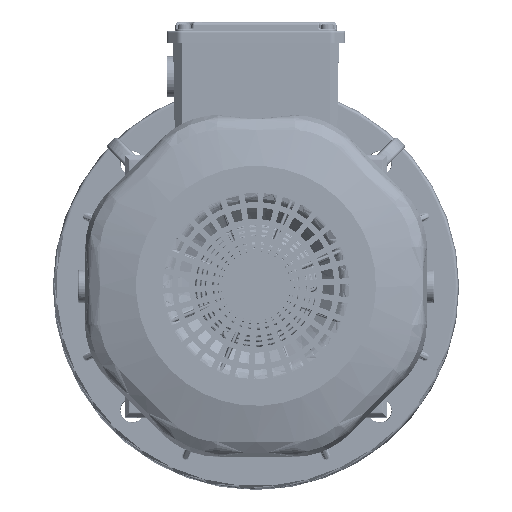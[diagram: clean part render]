
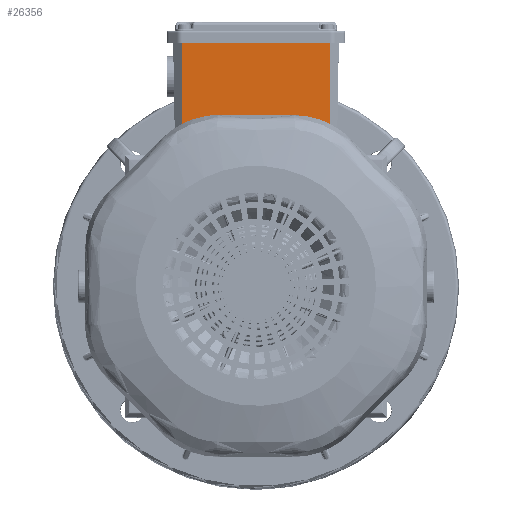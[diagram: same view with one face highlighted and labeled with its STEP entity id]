
A CAD part, top view. The second image highlights one B-rep face of the part: STEP entity #26356.
In plain terms, the highlighted planar face has unit normal (0, -0.018, 1).
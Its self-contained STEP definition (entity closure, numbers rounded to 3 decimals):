
#26356=ADVANCED_FACE('',(#41548),#39238,.T.);
#39238=PLANE('',#198395);
#41548=FACE_OUTER_BOUND('',#53903,.T.);
#53903=EDGE_LOOP('',(#84748,#84749,#84750,#84751));
#67784=LINE('',#270967,#76149);
#67827=LINE('',#271064,#76192);
#67837=LINE('',#271084,#76202);
#67838=LINE('',#271086,#76203);
#76149=VECTOR('',#219882,1.);
#76192=VECTOR('',#219961,1.);
#76202=VECTOR('',#219981,1.);
#76203=VECTOR('',#219984,1.);
#84748=ORIENTED_EDGE('',*,*,#161239,.T.);
#84749=ORIENTED_EDGE('',*,*,#161250,.F.);
#84750=ORIENTED_EDGE('',*,*,#161188,.F.);
#84751=ORIENTED_EDGE('',*,*,#161249,.T.);
#143853=VERTEX_POINT('',#270966);
#143854=VERTEX_POINT('',#270968);
#143889=VERTEX_POINT('',#271063);
#143890=VERTEX_POINT('',#271065);
#161188=EDGE_CURVE('',#143853,#143854,#67784,.T.);
#161239=EDGE_CURVE('',#143890,#143889,#67827,.T.);
#161249=EDGE_CURVE('',#143853,#143890,#67837,.T.);
#161250=EDGE_CURVE('',#143854,#143889,#67838,.T.);
#198395=AXIS2_PLACEMENT_3D('',#271087,#219985,#219986);
#219882=DIRECTION('',(-1.,0.,0.));
#219961=DIRECTION('',(-1.,0.,0.));
#219981=DIRECTION('',(0.007,1.,0.017));
#219984=DIRECTION('',(-0.007,1.,0.017));
#219985=DIRECTION('',(0.,-0.017,1.));
#219986=DIRECTION('',(0.,-1.,-0.017));
#270966=CARTESIAN_POINT('',(45.172,97.5,74.5));
#270967=CARTESIAN_POINT('',(45.172,97.5,74.5));
#270968=CARTESIAN_POINT('',(-45.172,97.5,74.5));
#271063=CARTESIAN_POINT('',(-45.548,149.5,75.408));
#271064=CARTESIAN_POINT('',(52.,149.5,75.408));
#271065=CARTESIAN_POINT('',(45.548,149.5,75.408));
#271084=CARTESIAN_POINT('',(45.172,97.5,74.5));
#271086=CARTESIAN_POINT('',(-45.172,97.5,74.5));
#271087=CARTESIAN_POINT('',(45.172,97.5,74.5));
